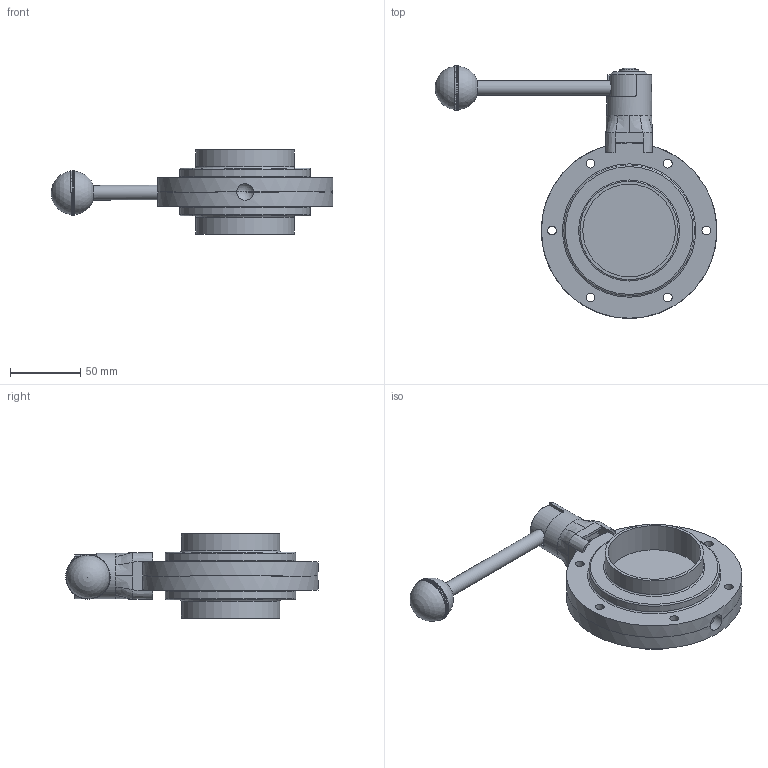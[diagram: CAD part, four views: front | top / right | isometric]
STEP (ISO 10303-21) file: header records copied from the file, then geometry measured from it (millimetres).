
FILE_DESCRIPTION(/* description */ ('VVF VALV.FARF.DN65 (70X2) SS EPDM 316 LEVA INOX 3POS.'),/* implementation_level */ '2;1');
FILE_NAME(/* name */ 'C:\_DED_PWS\GIOR-G\DB\B\EBA\BEBACG065BEBV-00^SAGOMA.step',/* time_stamp */ '2023-07-12T13:47:29+02:00',/* author */ (''),/* organization */ (''),/* preprocessor_version */ 'ST-DEVELOPER v18.1',/* originating_system */ 'Autodesk Inventor 2022',/* authorisation */ '');
FILE_SCHEMA (('CONFIG_CONTROL_DESIGN'));
Length unit declared in the file: millimetre
Products named in the file (3): BEBACG065BEBV; TNU430065AAA; TWD006065BBA
Assembly tree (3 placements, depth 2):
  BEBACG065BEBV
    TNU430065AAA
    TWD006065BBA  x2
Bounding box: 200.68 x 179.93 x 60 mm (x, y, z)
Volume: 344904.6 mm3; surface area: 102681.4 mm2
Topology: 5 solids, 6 shells, 543 faces, 1325 edges, 873 vertices
Faces by surface type: plane 351, torus 85, cylinder 58, bspline 38, cone 7, sphere 4
Full cylindrical faces by diameter (mm): 6 x2, 6.2 x12, 6.5 x3, 9 x3, 9.3 x1, 10 x1, 10.4 x1, 10.5 x1, 11 x1, 11.1 x1, 11.4 x2, 13.4 x1, 15 x1, 15.2 x1, 27.8 x1, 28.4 x1, 32.2 x1, 66 x2, 70 x2, 93 x2, 125 x2
Entity records: 26291 total; most frequent: CARTESIAN_POINT 13495, DIRECTION 2570, ORIENTED_EDGE 2546, EDGE_CURVE 1273, AXIS2_PLACEMENT_3D 1070, VERTEX_POINT 841, EDGE_LOOP 628, CIRCLE 579
